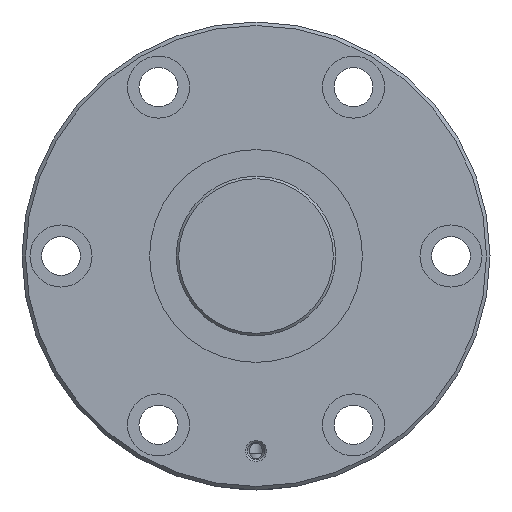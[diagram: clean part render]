
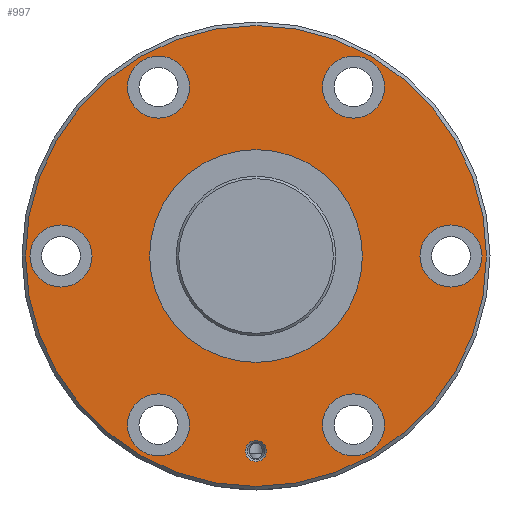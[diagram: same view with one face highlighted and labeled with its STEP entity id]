
A CAD part, left-side view. The second image highlights one B-rep face of the part: STEP entity #997.
In plain terms, the highlighted planar face has unit normal (-1, 0, 0).
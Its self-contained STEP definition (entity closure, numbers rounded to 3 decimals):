
#155=ORIENTED_EDGE('',*,*,#368,.T.);
#156=ORIENTED_EDGE('',*,*,#369,.T.);
#157=ORIENTED_EDGE('',*,*,#370,.T.);
#158=ORIENTED_EDGE('',*,*,#371,.T.);
#159=ORIENTED_EDGE('',*,*,#372,.T.);
#160=ORIENTED_EDGE('',*,*,#373,.T.);
#161=ORIENTED_EDGE('',*,*,#374,.T.);
#162=ORIENTED_EDGE('',*,*,#375,.T.);
#163=ORIENTED_EDGE('',*,*,#367,.F.);
#367=EDGE_CURVE('',#477,#477,#570,.T.);
#368=EDGE_CURVE('',#478,#478,#571,.T.);
#369=EDGE_CURVE('',#479,#479,#572,.F.);
#370=EDGE_CURVE('',#480,#480,#573,.T.);
#371=EDGE_CURVE('',#481,#481,#574,.T.);
#372=EDGE_CURVE('',#482,#482,#575,.T.);
#373=EDGE_CURVE('',#483,#483,#576,.T.);
#374=EDGE_CURVE('',#484,#484,#577,.T.);
#375=EDGE_CURVE('',#485,#485,#578,.T.);
#477=VERTEX_POINT('',#1668);
#478=VERTEX_POINT('',#1671);
#479=VERTEX_POINT('',#1673);
#480=VERTEX_POINT('',#1675);
#481=VERTEX_POINT('',#1677);
#482=VERTEX_POINT('',#1679);
#483=VERTEX_POINT('',#1681);
#484=VERTEX_POINT('',#1683);
#485=VERTEX_POINT('',#1685);
#570=CIRCLE('',#1111,65.);
#571=CIRCLE('',#1113,30.);
#572=CIRCLE('',#1114,8.75);
#573=CIRCLE('',#1115,3.);
#574=CIRCLE('',#1116,8.75);
#575=CIRCLE('',#1117,8.75);
#576=CIRCLE('',#1118,8.75);
#577=CIRCLE('',#1119,8.75);
#578=CIRCLE('',#1120,8.75);
#658=EDGE_LOOP('',(#155));
#659=EDGE_LOOP('',(#156));
#660=EDGE_LOOP('',(#157));
#661=EDGE_LOOP('',(#158));
#662=EDGE_LOOP('',(#159));
#663=EDGE_LOOP('',(#160));
#664=EDGE_LOOP('',(#161));
#665=EDGE_LOOP('',(#162));
#666=EDGE_LOOP('',(#163));
#818=FACE_BOUND('',#658,.T.);
#819=FACE_BOUND('',#659,.T.);
#820=FACE_BOUND('',#660,.T.);
#821=FACE_BOUND('',#661,.T.);
#822=FACE_BOUND('',#662,.T.);
#823=FACE_BOUND('',#663,.T.);
#824=FACE_BOUND('',#664,.T.);
#825=FACE_BOUND('',#665,.T.);
#826=FACE_BOUND('',#666,.T.);
#960=PLANE('',#1112);
#997=ADVANCED_FACE('',(#818,#819,#820,#821,#822,#823,#824,#825,#826),#960,
 .T.);
#1111=AXIS2_PLACEMENT_3D('',#1667,#1295,#1296);
#1112=AXIS2_PLACEMENT_3D('',#1669,#1297,#1298);
#1113=AXIS2_PLACEMENT_3D('',#1670,#1299,#1300);
#1114=AXIS2_PLACEMENT_3D('',#1672,#1301,#1302);
#1115=AXIS2_PLACEMENT_3D('',#1674,#1303,#1304);
#1116=AXIS2_PLACEMENT_3D('',#1676,#1305,#1306);
#1117=AXIS2_PLACEMENT_3D('',#1678,#1307,#1308);
#1118=AXIS2_PLACEMENT_3D('',#1680,#1309,#1310);
#1119=AXIS2_PLACEMENT_3D('',#1682,#1311,#1312);
#1120=AXIS2_PLACEMENT_3D('',#1684,#1313,#1314);
#1295=DIRECTION('',(1.,0.,0.));
#1296=DIRECTION('',(0.,0.,-1.));
#1297=DIRECTION('',(-1.,0.,0.));
#1298=DIRECTION('',(0.,0.,1.));
#1299=DIRECTION('',(1.,0.,0.));
#1300=DIRECTION('',(0.,0.,-1.));
#1301=DIRECTION('',(-1.,0.,0.));
#1302=DIRECTION('',(0.,0.,1.));
#1303=DIRECTION('',(1.,0.,0.));
#1304=DIRECTION('',(0.,0.,-1.));
#1305=DIRECTION('',(1.,0.,0.));
#1306=DIRECTION('',(0.,0.,-1.));
#1307=DIRECTION('',(1.,0.,0.));
#1308=DIRECTION('',(0.,0.,-1.));
#1309=DIRECTION('',(1.,0.,0.));
#1310=DIRECTION('',(0.,0.,-1.));
#1311=DIRECTION('',(1.,0.,0.));
#1312=DIRECTION('',(0.,0.,-1.));
#1313=DIRECTION('',(1.,0.,0.));
#1314=DIRECTION('',(0.,0.,-1.));
#1667=CARTESIAN_POINT('',(0.,0.,0.));
#1668=CARTESIAN_POINT('',(0.,0.,-65.));
#1669=CARTESIAN_POINT('',(0.,65.,0.));
#1670=CARTESIAN_POINT('',(0.,0.,0.));
#1671=CARTESIAN_POINT('',(0.,0.,-30.));
#1672=CARTESIAN_POINT('',(0.,55.,0.));
#1673=CARTESIAN_POINT('',(0.,55.,8.75));
#1674=CARTESIAN_POINT('',(0.,0.,-55.));
#1675=CARTESIAN_POINT('',(0.,0.,-58.));
#1676=CARTESIAN_POINT('',(0.,-55.,0.));
#1677=CARTESIAN_POINT('',(0.,-55.,-8.75));
#1678=CARTESIAN_POINT('',(0.,27.5,47.631));
#1679=CARTESIAN_POINT('',(0.,27.5,38.881));
#1680=CARTESIAN_POINT('',(0.,-27.5,-47.631));
#1681=CARTESIAN_POINT('',(0.,-27.5,-56.381));
#1682=CARTESIAN_POINT('',(0.,-27.5,47.631));
#1683=CARTESIAN_POINT('',(0.,-27.5,38.881));
#1684=CARTESIAN_POINT('',(0.,27.5,-47.631));
#1685=CARTESIAN_POINT('',(0.,27.5,-56.381));
